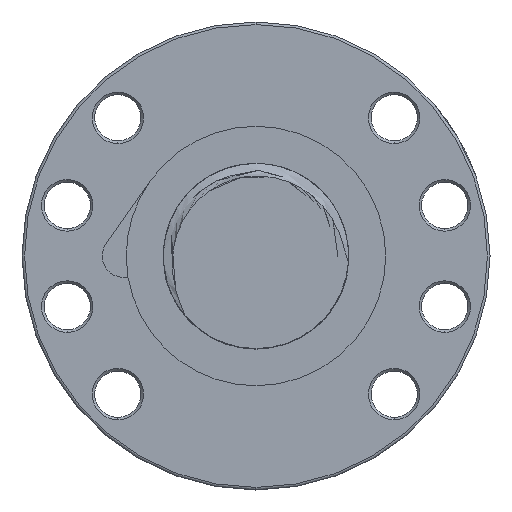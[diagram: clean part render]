
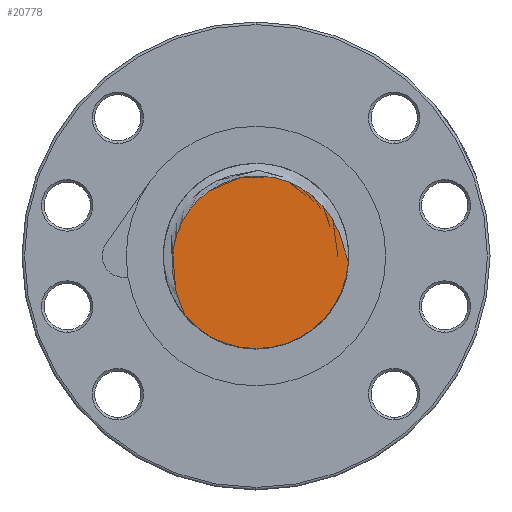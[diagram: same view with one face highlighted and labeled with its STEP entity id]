
A CAD part, left-side view. The second image highlights one B-rep face of the part: STEP entity #20778.
In plain terms, the highlighted planar face has unit normal (-1, 0, 0).
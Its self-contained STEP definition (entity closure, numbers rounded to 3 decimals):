
#6815 = CARTESIAN_POINT ( 'NONE',  ( -128., -17.958, -1.227 ) ) ;
#6816 = DIRECTION ( 'NONE',  ( 0., 1., 0. ) ) ;
#6817 = DIRECTION ( 'NONE',  ( 1., 0., 0. ) ) ;
#6818 = CARTESIAN_POINT ( 'NONE',  ( -128., 0., 0. ) ) ;
#6819 = AXIS2_PLACEMENT_3D ( 'NONE', #6818, #6817, #6816 ) ;
#6820 = CIRCLE ( 'NONE', #6819, 18. ) ;
#8167 = CARTESIAN_POINT ( 'NONE',  ( -128., 13.807, -11.548 ) ) ;
#8168 = CARTESIAN_POINT ( 'NONE',  ( -128., 13.914, -11.232 ) ) ;
#8169 = CARTESIAN_POINT ( 'NONE',  ( -128., 14.037, -10.923 ) ) ;
#8170 = CARTESIAN_POINT ( 'NONE',  ( -128., 14.283, -10.305 ) ) ;
#8171 = CARTESIAN_POINT ( 'NONE',  ( -128., 14.408, -9.996 ) ) ;
#8172 = CARTESIAN_POINT ( 'NONE',  ( -128., 14.774, -9.067 ) ) ;
#8173 = CARTESIAN_POINT ( 'NONE',  ( -128., 15.006, -8.443 ) ) ;
#8174 = CARTESIAN_POINT ( 'NONE',  ( -128., 15.419, -7.18 ) ) ;
#8175 = CARTESIAN_POINT ( 'NONE',  ( -128., 15.6, -6.542 ) ) ;
#8176 = CARTESIAN_POINT ( 'NONE',  ( -128., 15.904, -5.25 ) ) ;
#8177 = CARTESIAN_POINT ( 'NONE',  ( -128., 16.027, -4.594 ) ) ;
#8178 = CARTESIAN_POINT ( 'NONE',  ( -128., 16.291, -2.619 ) ) ;
#8179 = CARTESIAN_POINT ( 'NONE',  ( -128., 16.33, -1.303 ) ) ;
#8180 = CARTESIAN_POINT ( 'NONE',  ( -128., 16.198, 0.344 ) ) ;
#8181 = CARTESIAN_POINT ( 'NONE',  ( -128., 16.162, 0.673 ) ) ;
#8182 = CARTESIAN_POINT ( 'NONE',  ( -128., 16.073, 1.332 ) ) ;
#8183 = CARTESIAN_POINT ( 'NONE',  ( -128., 16.019, 1.662 ) ) ;
#8184 = CARTESIAN_POINT ( 'NONE',  ( -128., 15.83, 2.639 ) ) ;
#8185 = CARTESIAN_POINT ( 'NONE',  ( -128., 15.669, 3.279 ) ) ;
#8186 = CARTESIAN_POINT ( 'NONE',  ( -128., 15.274, 4.534 ) ) ;
#8187 = CARTESIAN_POINT ( 'NONE',  ( -128., 15.041, 5.15 ) ) ;
#8188 = CARTESIAN_POINT ( 'NONE',  ( -128., 14.5, 6.358 ) ) ;
#8189 = CARTESIAN_POINT ( 'NONE',  ( -128., 14.19, 6.952 ) ) ;
#8190 = CARTESIAN_POINT ( 'NONE',  ( -128., 13.17, 8.657 ) ) ;
#8191 = CARTESIAN_POINT ( 'NONE',  ( -128., 12.368, 9.701 ) ) ;
#8192 = CARTESIAN_POINT ( 'NONE',  ( -128., 11.207, 10.885 ) ) ;
#8193 = CARTESIAN_POINT ( 'NONE',  ( -128., 10.965, 11.117 ) ) ;
#8194 = CARTESIAN_POINT ( 'NONE',  ( -128., 10.471, 11.562 ) ) ;
#8195 = CARTESIAN_POINT ( 'NONE',  ( -128., 10.219, 11.777 ) ) ;
#8196 = CARTESIAN_POINT ( 'NONE',  ( -128., 9.444, 12.394 ) ) ;
#8197 = CARTESIAN_POINT ( 'NONE',  ( -128., 8.905, 12.773 ) ) ;
#8198 = CARTESIAN_POINT ( 'NONE',  ( -128., 7.785, 13.465 ) ) ;
#8199 = CARTESIAN_POINT ( 'NONE',  ( -128., 7.203, 13.778 ) ) ;
#8200 = CARTESIAN_POINT ( 'NONE',  ( -128., 5.994, 14.338 ) ) ;
#8201 = CARTESIAN_POINT ( 'NONE',  ( -128., 5.374, 14.58 ) ) ;
#8202 = CARTESIAN_POINT ( 'NONE',  ( -128., 4.12, 14.984 ) ) ;
#8203 = CARTESIAN_POINT ( 'NONE',  ( -128., 3.483, 15.146 ) ) ;
#8204 = CARTESIAN_POINT ( 'NONE',  ( -128., 2.188, 15.394 ) ) ;
#8205 = CARTESIAN_POINT ( 'NONE',  ( -128., 1.529, 15.48 ) ) ;
#8206 = CARTESIAN_POINT ( 'NONE',  ( -128., -0.464, 15.617 ) ) ;
#8207 = CARTESIAN_POINT ( 'NONE',  ( -128., -1.778, 15.549 ) ) ;
#8208 = CARTESIAN_POINT ( 'NONE',  ( -128., -3.402, 15.268 ) ) ;
#8209 = CARTESIAN_POINT ( 'NONE',  ( -128., -3.726, 15.202 ) ) ;
#8210 = CARTESIAN_POINT ( 'NONE',  ( -128., -4.372, 15.05 ) ) ;
#8211 = CARTESIAN_POINT ( 'NONE',  ( -128., -4.695, 14.963 ) ) ;
#8212 = CARTESIAN_POINT ( 'NONE',  ( -128., -5.65, 14.676 ) ) ;
#8213 = CARTESIAN_POINT ( 'NONE',  ( -128., -6.269, 14.448 ) ) ;
#8214 = CARTESIAN_POINT ( 'NONE',  ( -128., -7.475, 13.925 ) ) ;
#8215 = CARTESIAN_POINT ( 'NONE',  ( -128., -8.062, 13.629 ) ) ;
#8216 = CARTESIAN_POINT ( 'NONE',  ( -128., -8.918, 13.133 ) ) ;
#8217 = CARTESIAN_POINT ( 'NONE',  ( -128., -9.199, 12.959 ) ) ;
#8218 = CARTESIAN_POINT ( 'NONE',  ( -128., -9.753, 12.593 ) ) ;
#8219 = CARTESIAN_POINT ( 'NONE',  ( -128., -10.026, 12.401 ) ) ;
#8220 = CARTESIAN_POINT ( 'NONE',  ( -128., -11.357, 11.405 ) ) ;
#8221 = CARTESIAN_POINT ( 'NONE',  ( -128., -12.31, 10.499 ) ) ;
#8222 = CARTESIAN_POINT ( 'NONE',  ( -128., -13.377, 9.241 ) ) ;
#8223 = CARTESIAN_POINT ( 'NONE',  ( -128., -13.584, 8.983 ) ) ;
#8224 = CARTESIAN_POINT ( 'NONE',  ( -128., -13.986, 8.455 ) ) ;
#8225 = CARTESIAN_POINT ( 'NONE',  ( -128., -14.18, 8.183 ) ) ;
#8226 = CARTESIAN_POINT ( 'NONE',  ( -128., -14.739, 7.359 ) ) ;
#8227 = CARTESIAN_POINT ( 'NONE',  ( -128., -15.079, 6.795 ) ) ;
#8228 = CARTESIAN_POINT ( 'NONE',  ( -128., -16.008, 5.062 ) ) ;
#8229 = CARTESIAN_POINT ( 'NONE',  ( -128., -16.503, 3.852 ) ) ;
#8230 = CARTESIAN_POINT ( 'NONE',  ( -128., -17.107, 1.973 ) ) ;
#8231 = CARTESIAN_POINT ( 'NONE',  ( -128., -17.285, 1.336 ) ) ;
#8232 = CARTESIAN_POINT ( 'NONE',  ( -128., -17.533, 0.374 ) ) ;
#8233 = CARTESIAN_POINT ( 'NONE',  ( -128., -17.613, 0.052 ) ) ;
#8234 = CARTESIAN_POINT ( 'NONE',  ( -128., -17.776, -0.59 ) ) ;
#8235 = CARTESIAN_POINT ( 'NONE',  ( -128., -17.859, -0.911 ) ) ;
#8236 = CARTESIAN_POINT ( 'NONE',  ( -128., -17.958, -1.227 ) ) ;
#8237 = B_SPLINE_CURVE_WITH_KNOTS ( 'NONE', 3,
 ( #8236, #8235, #8234, #8233, #8232, #8231, #8230, #8229, #8228, #8227, #8226, #8225, #8224, #8223, #8222, #8221, #8220, #8219, #8218, #8217, #8216, #8215, #8214, #8213, #8212, #8211, #8210, #8209, #8208, #8207, #8206, #8205, #8204, #8203, #8202, #8201, #8200, #8199, #8198, #8197, #8196, #8195, #8194, #8193, #8192, #8191, #8190, #8189, #8188, #8187, #8186, #8185, #8184, #8183, #8182, #8181, #8180, #8179, #8178, #8177, #8176, #8175, #8174, #8173, #8172, #8171, #8170, #8169, #8168, #8167 ),
 .UNSPECIFIED., .F., .F.,
 ( 4, 2, 2, 2, 2, 2, 2, 2, 2, 2, 2, 2, 2, 2, 2, 2, 2, 2, 2, 2, 2, 2, 2, 2, 2, 2, 2, 2, 2, 2, 2, 2, 2, 2, 4 ),
 ( 0.001, 0.002, 0.003, 0.005, 0.009, 0.011, 0.012, 0.013, 0.017, 0.018, 0.019, 0.021, 0.023, 0.024, 0.025, 0.028, 0.03, 0.032, 0.034, 0.036, 0.038, 0.039, 0.04, 0.044, 0.046, 0.048, 0.05, 0.051, 0.052, 0.056, 0.058, 0.06, 0.062, 0.063, 0.064 ),
 .UNSPECIFIED. ) ;
#8239 = DIRECTION ( 'NONE',  ( 0., 0., -1. ) ) ;
#8240 = DIRECTION ( 'NONE',  ( 1., 0., 0. ) ) ;
#8241 = CARTESIAN_POINT ( 'NONE',  ( -128., 0., 0. ) ) ;
#8242 = AXIS2_PLACEMENT_3D ( 'NONE', #8241, #8240, #8239 ) ;
#8243 = FACE_OUTER_BOUND ( 'NONE', #20779, .T. ) ;
#8250 = PLANE ( 'NONE',  #8242 ) ;
#12440 = VERTEX_POINT ( 'NONE', #25741 ) ;
#12500 = EDGE_CURVE ( 'NONE', #12440, #12559, #26034, .T. ) ;
#12559 = VERTEX_POINT ( 'NONE', #20353 ) ;
#16470 = EDGE_CURVE ( 'NONE', #16543, #12440, #6820, .T. ) ;
#16543 = VERTEX_POINT ( 'NONE', #6815 ) ;
#20353 = CARTESIAN_POINT ( 'NONE',  ( -128., 13.807, -11.548 ) ) ;
#20778 = ADVANCED_FACE ( 'NONE', ( #8243 ), #8250, .F. ) ;
#20779 = EDGE_LOOP ( 'NONE', ( #20780, #20781, #20783 ) ) ;
#20780 = ORIENTED_EDGE ( 'NONE', *, *, #16470, .F. ) ;
#20781 = ORIENTED_EDGE ( 'NONE', *, *, #20782, .T. ) ;
#20782 = EDGE_CURVE ( 'NONE', #16543, #12559, #8237, .T. ) ;
#20783 = ORIENTED_EDGE ( 'NONE', *, *, #12500, .F. ) ;
#25741 = CARTESIAN_POINT ( 'NONE',  ( -128., 0., -18. ) ) ;
#26030 = DIRECTION ( 'NONE',  ( 0., 1., 0. ) ) ;
#26031 = DIRECTION ( 'NONE',  ( 1., 0., 0. ) ) ;
#26032 = CARTESIAN_POINT ( 'NONE',  ( -128., 0., 0. ) ) ;
#26033 = AXIS2_PLACEMENT_3D ( 'NONE', #26032, #26031, #26030 ) ;
#26034 = CIRCLE ( 'NONE', #26033, 18. ) ;
